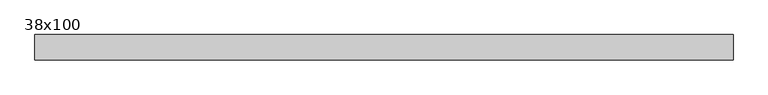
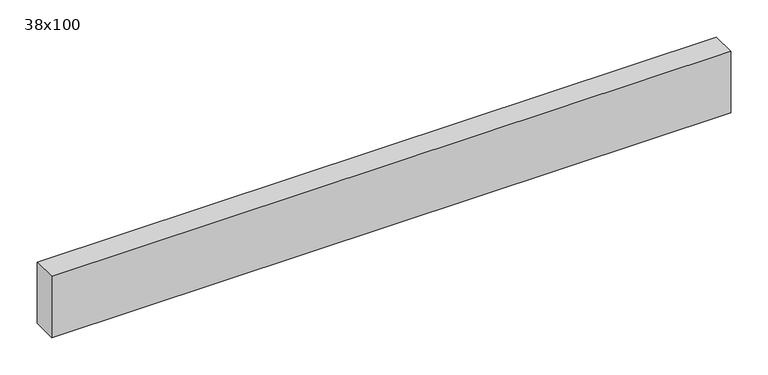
"""IFC4 building model written with IfcOpenShell, lengths in millimetres: beam geometry, Poutre - Bois de construction de dimensions courantes : 38x100."""

from ifc_helpers import new_model, si_unit, frame, origin, place, context, project, spatial, polyline, outline, extrude, source, transform, mapped, element, save


def beam_38x100_c4cb0074(model_context):
    return source(origin(), model_context, "Body", "SweptSolid", [
        extrude(outline(polyline([(382.5, 19.05), (382.5, -19.05), (-667.5, -19.05), (-667.5, 19.05), (382.5, 19.05)])), frame((0.0, 0.0, -50.0), z_axis=(0.0, 0.0, 1.0), x_axis=(1.0, 0.0, 0.0)), (0.0, 0.0, 1.0), 100.0),
    ])


if __name__ == "__main__":
    model = new_model("IFC4")
    model_context = context("Model", 3, world=origin())
    ifc_project = project(units=[si_unit("LENGTHUNIT", "METRE", prefix="MILLI")], contexts=[model_context])
    site = spatial("IfcSite", under=ifc_project)
    building = spatial("IfcBuilding", under=site)
    placement = place(None, origin())
    beam_38x100_shape = beam_38x100_c4cb0074(model_context)
    element("IfcBeam", 1, ObjectType="Poutre - Bois de construction de dimensions courantes : 38x100", at=placement, inside=building, context=model_context, shape_type="MappedRepresentation", body=[
        mapped(beam_38x100_shape, transform((0.0, 0.0, 0.0), x_axis=(1.0, 0.0, 0.0), y_axis=(0.0, 1.0, 0.0), z_axis=(0.0, 0.0, 1.0))),
    ])
    save(model, "model.ifc")
